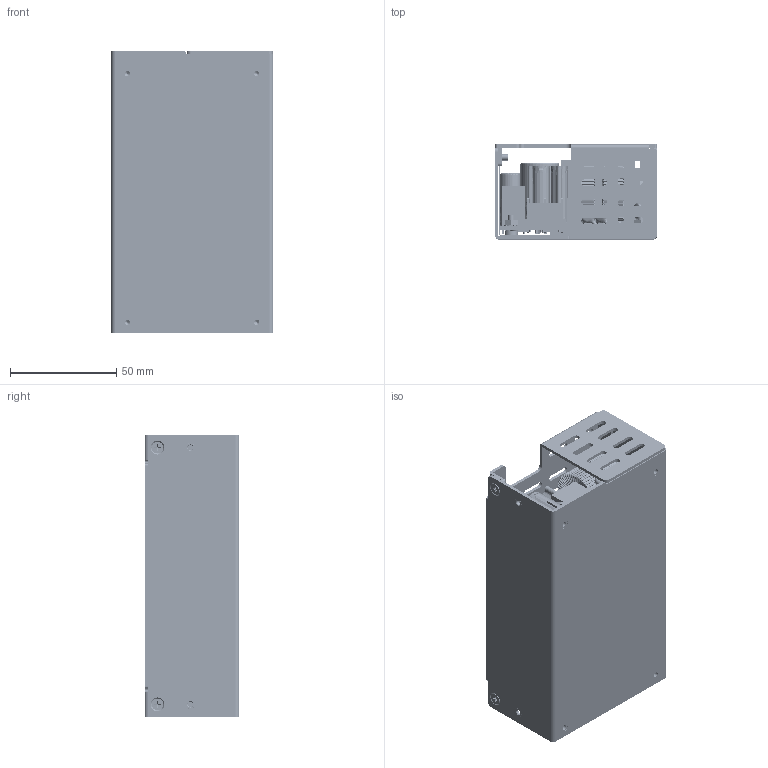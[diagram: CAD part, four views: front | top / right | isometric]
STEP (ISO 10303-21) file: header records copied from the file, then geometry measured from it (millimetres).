
FILE_DESCRIPTION (( 'STEP AP203' ), '1' );
FILE_NAME ('01-NGB425-C.STEP', '2021-03-11T00:52:10', ( '' ), ( '' ), 'SwSTEP 2.0', 'SolidWorks 2020', '' );
FILE_SCHEMA (( 'CONFIG_CONTROL_DESIGN' ));
Length unit declared in the file: millimetre
Products named in the file (72): D100; U chassis-C; L301 wire; 10-31782-0139; L104 CORE; q204; Mulan_BOBBIN ; 04-NGB425 ; 10-31782-0117; L104 base bobbin; 19-36XXX-0001-0.1; 19-36582-0003; 12-34001-1800; SWR204-NRTN-D07-RA-GA 14pin; 01-NGB425-C; 10-31694-0473; 02-36597-2272; 10-32331-0028; 05-36147-7005; L104 WINDING; 10-30970-0083; 19-36XXX-0004; T200 core; 04-36597-0002; ST 3 x 4_B18.6.7M - M3 x 0.5 x 10 Type I Cross Recessed FHMS --10S; T200 ASSY; 11-31888-0048; 19-30271-4305; 10-31782-0141; 10-30180-5102_По умолчанию; EMI BOARD; T200 COIN; 10-31782-0122; 19-36XXX-0004-0.1; q200; core t201; 19-36XXX-0002-0.1_BEND; 07-36541-0001-2; NGB A2 ASSY; 19-31605-0043_PEM F-M3-1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
Assembly tree (164 placements, depth 4):
  01-NGB425-C
    04-NGB425 
      02-NGB Main1
      10-30180-5102_По умолчанию  x5
      5-36427-7004  x2
      10-32298-0025
      20-36500-0001  x2
      15-31971-0303
      10-31694-0473
      10-30970-0083  x2
      12-34001-1800
      11-31888-0048  x2
      10-31782-0141  x4
      10-31782-0122
      L104 ASSY
        L104 CORE  x2
        L104 WINDING
        L104 base bobbin
      T201
        T201
        core t201  x2
        Coil t201
      10-31782-0139  x2
      10-31782-0117
      05-36147-7005
      05-36427-7006
        L301 wire
        L301 core  x6
      molex 1726751014
      NGB A2 ASSY
        EMI BOARD
        L3
        10-32331-0028
        10-32331-0028
        20-34589-0011
        16-30185-0006
        19-36582-0003
        18-30429-1003
      T200 ASSY
        T200 core  x2
        T200 COIN
        PCB - T200
      q200  x6
      q204  x2
      d105  x2
      5-36546-7001-2  x2
        Mulan_BOBBIN 
        Mulan_Core
        Litz_09X40_42T
        Kapton_Tape_2
      04-36597-0002
        02-36597-2272
        CONNECTOR PIN 15
        19-36582-0003
        SWR204-NRTN-D07-RA-GA 14pin
      18-32122-0003
      C124  x2
      D100  x2
      19-36597-0004-3
      22-31583-0062  x2
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Bounding box: 76.23 x 44.6 x 132.7 mm (x, y, z)
Volume: 167991.6 mm3; surface area: 208740.6 mm2
Topology: 218 solids, 220 shells, 9043 faces, 25256 edges, 16182 vertices
Faces by surface type: plane 4041, cylinder 2836, torus 1770, bspline 204, cone 148, sphere 44
Entity records: 170554 total; most frequent: CARTESIAN_POINT 33414, DIRECTION 27599, ORIENTED_EDGE 26560, EDGE_CURVE 13280, AXIS2_PLACEMENT_3D 10135, VERTEX_POINT 8481, VECTOR 7329, LINE 7329
